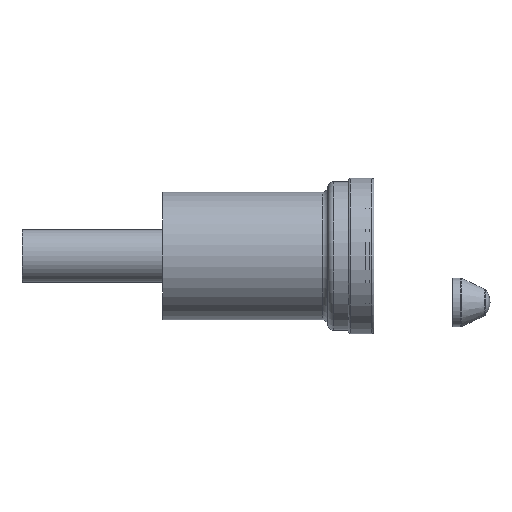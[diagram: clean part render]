
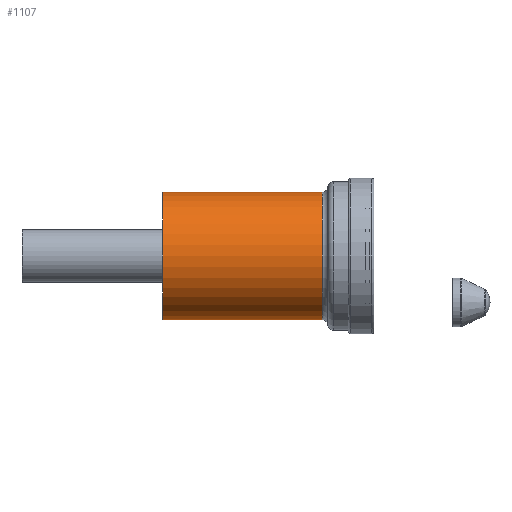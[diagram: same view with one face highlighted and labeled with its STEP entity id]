
A CAD part, front view. The second image highlights one B-rep face of the part: STEP entity #1107.
In plain terms, the highlighted cylindrical face has radius 55 mm (diameter 110 mm), a full revolution.
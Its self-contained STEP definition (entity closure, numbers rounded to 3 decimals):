
#93=FACE_BOUND('',#295,.T.);
#203=FACE_OUTER_BOUND('',#294,.T.);
#294=EDGE_LOOP('',(#784));
#295=EDGE_LOOP('',(#785));
#484=CIRCLE('',#1226,55.);
#485=CIRCLE('',#1228,55.);
#582=VERTEX_POINT('',#1829);
#583=VERTEX_POINT('',#1832);
#680=EDGE_CURVE('',#582,#582,#484,.T.);
#681=EDGE_CURVE('',#583,#583,#485,.T.);
#784=ORIENTED_EDGE('',*,*,#680,.T.);
#785=ORIENTED_EDGE('',*,*,#681,.F.);
#970=CYLINDRICAL_SURFACE('',#1227,55.);
#1107=ADVANCED_FACE('',(#203,#93),#970,.T.);
#1226=AXIS2_PLACEMENT_3D('',#1830,#1438,#1439);
#1227=AXIS2_PLACEMENT_3D('',#1831,#1440,#1441);
#1228=AXIS2_PLACEMENT_3D('',#1833,#1442,#1443);
#1438=DIRECTION('center_axis',(-1.,0.,0.));
#1439=DIRECTION('ref_axis',(0.,0.,-1.));
#1440=DIRECTION('center_axis',(-1.,0.,0.));
#1441=DIRECTION('ref_axis',(0.,1.,0.));
#1442=DIRECTION('center_axis',(-1.,0.,0.));
#1443=DIRECTION('ref_axis',(0.,0.,-1.));
#1829=CARTESIAN_POINT('',(137.5,55.,0.));
#1830=CARTESIAN_POINT('Origin',(137.5,0.,0.));
#1831=CARTESIAN_POINT('Origin',(68.75,0.,0.));
#1832=CARTESIAN_POINT('',(0.,55.,0.));
#1833=CARTESIAN_POINT('Origin',(0.,0.,0.));
